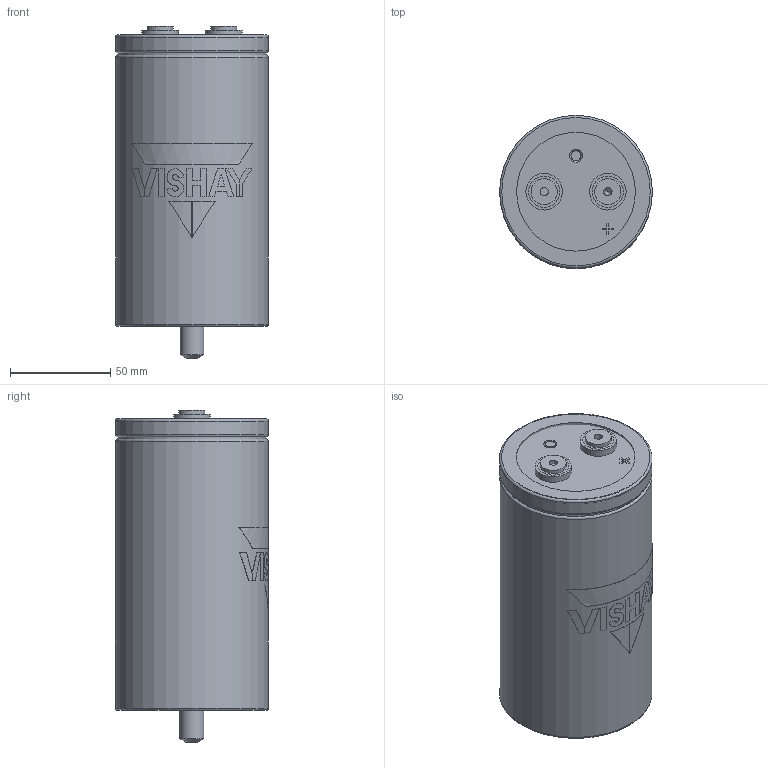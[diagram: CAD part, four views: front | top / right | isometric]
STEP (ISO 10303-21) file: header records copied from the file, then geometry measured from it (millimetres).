
FILE_DESCRIPTION(('FreeCAD Model'),'2;1');
FILE_NAME('C:/Users/tvandesteeg/Documents/Documents/FreeCAD/Stepfiles/ST capacitors/STB_LP_13mm_M5_76x146.step','2020-12-14T17:02:49',('Author'), (''),'Open CASCADE STEP processor 7.3','FreeCAD','Unknown');
FILE_SCHEMA(('AUTOMOTIVE_DESIGN { 1 0 10303 214 1 1 1 1 }'));
Length unit declared in the file: millimetre
Products named in the file (8): VentBody; TerminalBody_(Mirror_#2); TerminalBody; TerminalHole; Disc; LogoPrint; CanBody; STBBottomBody
Bounding box: 76.4 x 76.5 x 166 mm (x, y, z)
Volume: 672663.1 mm3; surface area: 73478.8 mm2
Topology: 18 solids, 18 shells, 155 faces, 321 edges, 211 vertices
Faces by surface type: plane 96, cylinder 50, torus 5, cone 4
Full cylindrical faces by diameter (mm): 4.2 x2, 5 x2, 11.966 x1, 13 x2, 15.65 x7, 18.3 x2, 59.422 x3, 72 x2, 74.2 x1, 76.4 x2
Entity records: 10900 total; most frequent: CARTESIAN_POINT 3392, DIRECTION 1245, ORIENTED_EDGE 638, PCURVE 638, DEFINITIONAL_REPRESENTATION 638, LINE 547, VECTOR 547, EDGE_CURVE 319
